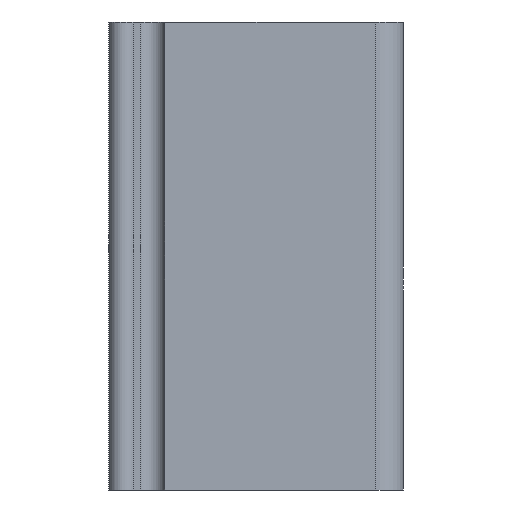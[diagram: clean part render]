
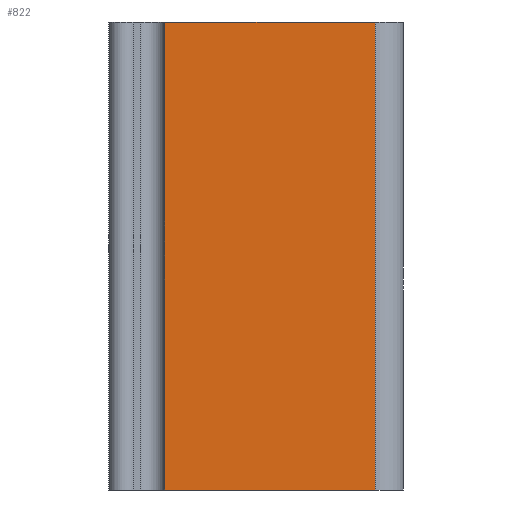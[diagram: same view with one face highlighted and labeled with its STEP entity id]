
A CAD part, front view. The second image highlights one B-rep face of the part: STEP entity #822.
In plain terms, the highlighted planar face has unit normal (0, -1, 0).
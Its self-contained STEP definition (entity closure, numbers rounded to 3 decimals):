
#283 = FACE_OUTER_BOUND ( 'NONE', #463, .T. ) ;
#298 = CARTESIAN_POINT ( 'NONE',  ( 22.5, -34.4, -25. ) ) ;
#322 = DIRECTION ( 'NONE',  ( 1., 0., 0. ) ) ;
#373 = LINE ( 'NONE', #1699, #2178 ) ;
#421 = VERTEX_POINT ( 'NONE', #1319 ) ;
#463 = EDGE_LOOP ( 'NONE', ( #1937, #789, #625, #806 ) ) ;
#480 = DIRECTION ( 'NONE',  ( 1., 0., 0. ) ) ;
#481 = EDGE_CURVE ( 'NONE', #1407, #421, #749, .T. ) ;
#616 = VECTOR ( 'NONE', #480, 1000. ) ;
#625 = ORIENTED_EDGE ( 'NONE', *, *, #481, .F. ) ;
#629 = DIRECTION ( 'NONE',  ( 0., 0., -1. ) ) ;
#734 = CARTESIAN_POINT ( 'NONE',  ( 22.5, -34.4, -25. ) ) ;
#749 = LINE ( 'NONE', #2070, #2127 ) ;
#789 = ORIENTED_EDGE ( 'NONE', *, *, #2167, .F. ) ;
#806 = ORIENTED_EDGE ( 'NONE', *, *, #2155, .T. ) ;
#822 = ADVANCED_FACE ( 'NONE', ( #283 ), #954, .F. ) ;
#954 = PLANE ( 'NONE',  #1969 ) ;
#955 = LINE ( 'NONE', #298, #616 ) ;
#1112 = DIRECTION ( 'NONE',  ( 0., 1., 0. ) ) ;
#1308 = VECTOR ( 'NONE', #629, 1000. ) ;
#1319 = CARTESIAN_POINT ( 'NONE',  ( 22.5, -34.4, 25. ) ) ;
#1407 = VERTEX_POINT ( 'NONE', #1583 ) ;
#1583 = CARTESIAN_POINT ( 'NONE',  ( 0., -34.4, 25. ) ) ;
#1699 = CARTESIAN_POINT ( 'NONE',  ( 22.5, -34.4, 25. ) ) ;
#1917 = VERTEX_POINT ( 'NONE', #734 ) ;
#1937 = ORIENTED_EDGE ( 'NONE', *, *, #2227, .T. ) ;
#1969 = AXIS2_PLACEMENT_3D ( 'NONE', #2016, #1112, #2006 ) ;
#2006 = DIRECTION ( 'NONE',  ( 0., 0., 1. ) ) ;
#2012 = CARTESIAN_POINT ( 'NONE',  ( 0., -34.4, -25. ) ) ;
#2016 = CARTESIAN_POINT ( 'NONE',  ( 22.5, -34.4, 25. ) ) ;
#2042 = LINE ( 'NONE', #2241, #1308 ) ;
#2046 = VERTEX_POINT ( 'NONE', #2012 ) ;
#2070 = CARTESIAN_POINT ( 'NONE',  ( 22.5, -34.4, 25. ) ) ;
#2072 = DIRECTION ( 'NONE',  ( 0., 0., -1. ) ) ;
#2127 = VECTOR ( 'NONE', #322, 1000. ) ;
#2155 = EDGE_CURVE ( 'NONE', #1407, #2046, #2042, .T. ) ;
#2167 = EDGE_CURVE ( 'NONE', #421, #1917, #373, .T. ) ;
#2178 = VECTOR ( 'NONE', #2072, 1000. ) ;
#2227 = EDGE_CURVE ( 'NONE', #2046, #1917, #955, .T. ) ;
#2241 = CARTESIAN_POINT ( 'NONE',  ( 0., -34.4, 25. ) ) ;
